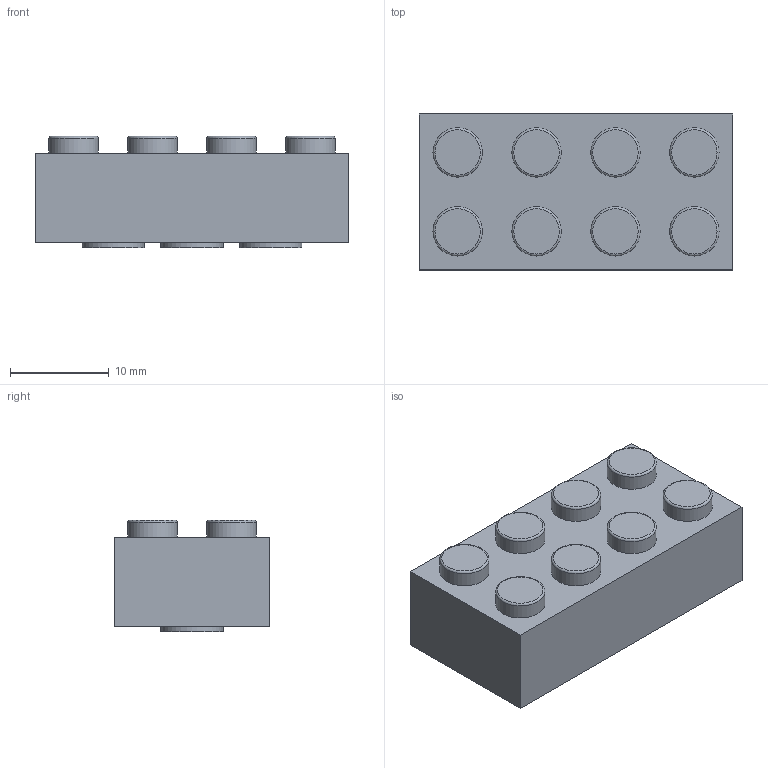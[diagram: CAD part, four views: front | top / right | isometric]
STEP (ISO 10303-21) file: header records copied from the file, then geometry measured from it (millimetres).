
FILE_DESCRIPTION(/* description */ (''),/* implementation_level */ '2;1');
FILE_NAME(/* name */ 'day1_lego_toy.step',/* time_stamp */ '2026-08-01T13:27:14+05:30',/* author */ (''),/* organization */ (''),/* preprocessor_version */ 'ST-DEVELOPER v20.1',/* originating_system */ 'Autodesk Translation Framework v15.8.0.0',/* authorisation */ '');
FILE_SCHEMA (('AUTOMOTIVE_DESIGN { 1 0 10303 214 3 1 1 }'));
Length unit declared in the file: millimetre
Products named in the file (1): 2026-08-01-13-06-36-875
Bounding box: 31.8 x 15.8 x 11.29 mm (x, y, z)
Volume: 2387.5 mm3; surface area: 3603.2 mm2
Topology: 1 solids, 1 shells, 63 faces, 114 edges, 76 vertices
Faces by surface type: plane 33, cylinder 22, torus 8
Full cylindrical faces by diameter (mm): 2.02 x8, 4.3 x3, 5 x8, 6.3 x3
Entity records: 1616 total; most frequent: DIRECTION 310, CARTESIAN_POINT 254, ORIENTED_EDGE 228, AXIS2_PLACEMENT_3D 132, EDGE_CURVE 114, EDGE_LOOP 86, VERTEX_POINT 76, CIRCLE 68
